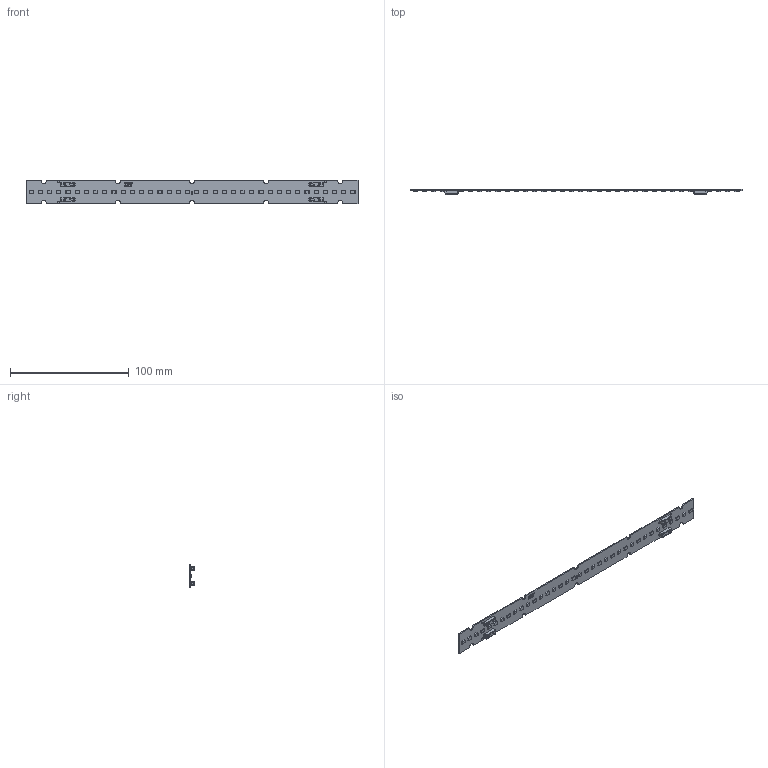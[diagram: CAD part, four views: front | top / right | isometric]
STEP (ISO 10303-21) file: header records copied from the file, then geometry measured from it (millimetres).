
FILE_DESCRIPTION(/* description */ ('Unknown'),/* implementation_level */ '2;1');
FILE_NAME(/* name */ 'LinLED 280x20mm 1100lm(36x2835) 4C sh-000 2019-11-13',/* time_stamp */ '2019-11-13T15:44:44+01:00',/* author */ ('KuczyĹ„ski R.'),/* organization */ ('MST'),/* preprocessor_version */ 'ST-DEVELOPER v16.7',/* originating_system */ 'DEX',/* authorisation */ $);
FILE_SCHEMA (('AUTOMOTIVE_DESIGN {1 0 10303 214 3 1 1}'));
Products named in the file (1): LinLED 280x20mm 1100lm(36x2835) 4C sh-000 2019-11-13
Bounding box: 280 x 4.5 x 20 mm (x, y, z)
Volume: 6279.9 mm3; surface area: 12916.4 mm2
Topology: 5 solids, 5 shells, 1694 faces, 4370 edges, 2776 vertices
Faces by surface type: plane 1090, cylinder 263, bspline 229, cone 60, sphere 32, torus 20
Full cylindrical faces by diameter (mm): 1.5 x1
Entity records: 62180 total; most frequent: CARTESIAN_POINT 18153, ORIENTED_EDGE 8642, DIRECTION 6893, EDGE_CURVE 4321, LINE 2997, VECTOR 2997, VERTEX_POINT 2764, AXIS2_PLACEMENT_3D 1948
